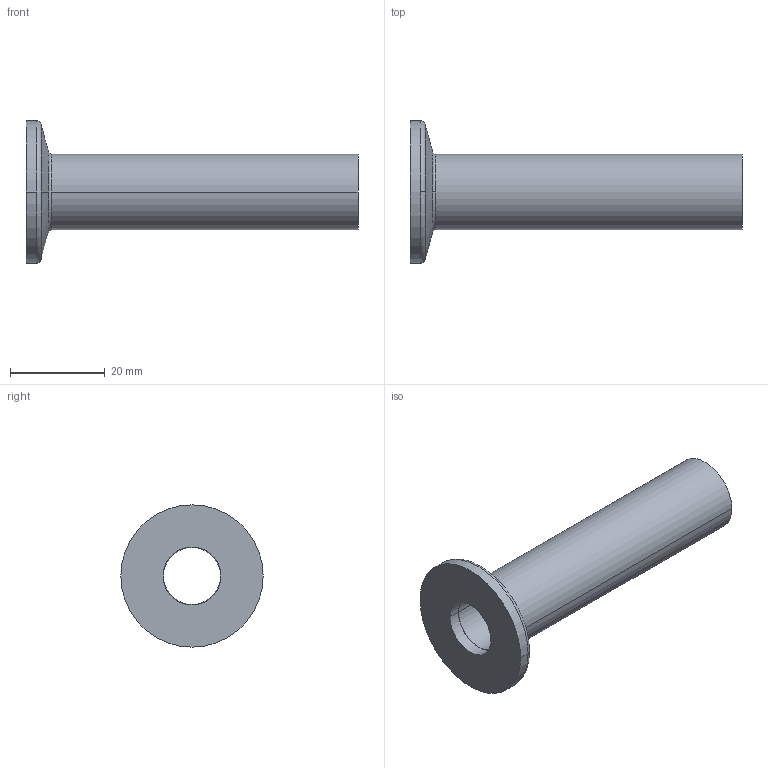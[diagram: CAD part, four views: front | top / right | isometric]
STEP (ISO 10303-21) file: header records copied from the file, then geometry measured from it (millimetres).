
FILE_DESCRIPTION((''),'2;1');
FILE_NAME('W:\211-206.stp','2003-10-09T09:57:56',('KAA'),(''),'Autodesk Inventor (R) 6.0','Autodesk Inventor (R) 6.0','');
FILE_SCHEMA(('CONFIG_CONTROL_DESIGN'));
Length unit declared in the file: millimetre
Products named in the file (1): 211-206
Bounding box: 70 x 30 x 30 mm (x, y, z)
Volume: 8083.2 mm3; surface area: 7373.8 mm2
Topology: 1 solids, 1 shells, 17 faces, 42 edges, 28 vertices
Faces by surface type: cylinder 8, plane 3, torus 2, cone 2, bspline 2
Entity records: 707 total; most frequent: CARTESIAN_POINT 176, DIRECTION 106, ORIENTED_EDGE 84, AXIS2_PLACEMENT_3D 48, EDGE_CURVE 42, CIRCLE 32, VERTEX_POINT 28, EDGE_LOOP 20
